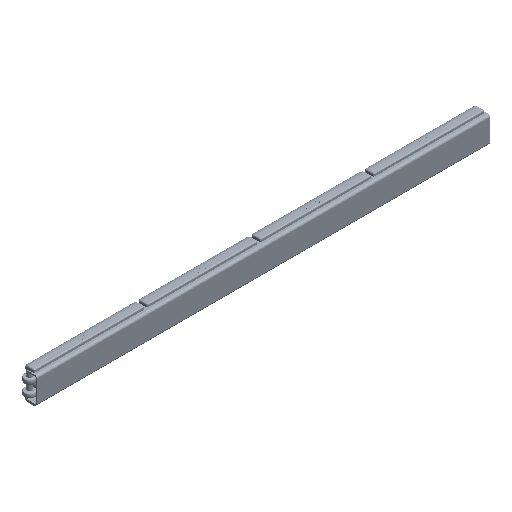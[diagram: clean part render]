
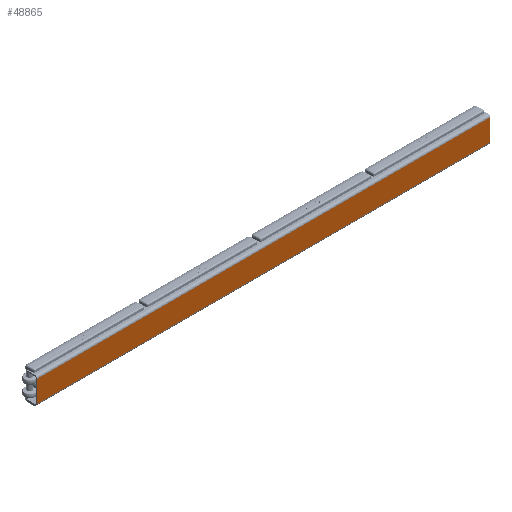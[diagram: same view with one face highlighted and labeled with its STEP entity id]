
A CAD part, isometric view. The second image highlights one B-rep face of the part: STEP entity #48865.
In plain terms, the highlighted planar face has unit normal (0, -1, 0).
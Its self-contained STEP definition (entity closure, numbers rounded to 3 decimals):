
#31459=EDGE_CURVE('',#88624,#88625,#88626,.T.);
#44255=EDGE_CURVE('',#88624,#109363,#109364,.T.);
#46949=EDGE_CURVE('',#88625,#113270,#113271,.T.);
#48865=ADVANCED_FACE('',(#115954),#115955,.F.);
#75909=EDGE_CURVE('',#109363,#113270,#149587,.T.);
#88624=VERTEX_POINT('',#165586);
#88625=VERTEX_POINT('',#165587);
#88626=LINE('',#165588,#165589);
#109363=VERTEX_POINT('',#195435);
#109364=LINE('',#195436,#195437);
#113270=VERTEX_POINT('',#201096);
#113271=LINE('',#201097,#201098);
#115954=FACE_OUTER_BOUND('',#205099,.T.);
#115955=PLANE('',#205100);
#149587=LINE('',#257292,#257293);
#165586=CARTESIAN_POINT('',(1500.0,0.0,24.0));
#165587=CARTESIAN_POINT('',(500.0,0.0,24.0));
#165588=CARTESIAN_POINT('',(0.0,0.0,24.0));
#165589=VECTOR('',#275607,1.0);
#195435=CARTESIAN_POINT('',(1500.0,0.,-24.0));
#195436=CARTESIAN_POINT('',(1500.0,0.0,0.0));
#195437=VECTOR('',#299177,1.0);
#201096=CARTESIAN_POINT('',(500.0,0.,-24.0));
#201097=CARTESIAN_POINT('',(500.0,0.0,-1.25));
#201098=VECTOR('',#304726,1.0);
#205099=EDGE_LOOP('',(#308220,#308221,#308222,#308223));
#205100=AXIS2_PLACEMENT_3D('',#308224,#308225,#308226);
#257292=CARTESIAN_POINT('',(0.0,0.,-24.0));
#257293=VECTOR('',#359934,1.0);
#275607=DIRECTION('',(-1.0,0.0,0.0));
#299177=DIRECTION('',(0.0,0.0,-1.0));
#304726=DIRECTION('',(0.0,0.0,-1.0));
#308220=ORIENTED_EDGE('',*,*,#46949,.T.);
#308221=ORIENTED_EDGE('',*,*,#75909,.F.);
#308222=ORIENTED_EDGE('',*,*,#44255,.F.);
#308223=ORIENTED_EDGE('',*,*,#31459,.T.);
#308224=CARTESIAN_POINT('',(0.0,0.0,24.0));
#308225=DIRECTION('',(0.0,1.0,0.0));
#308226=DIRECTION('',(1.0,0.0,-0.0));
#359934=DIRECTION('',(-1.0,0.0,0.0));
